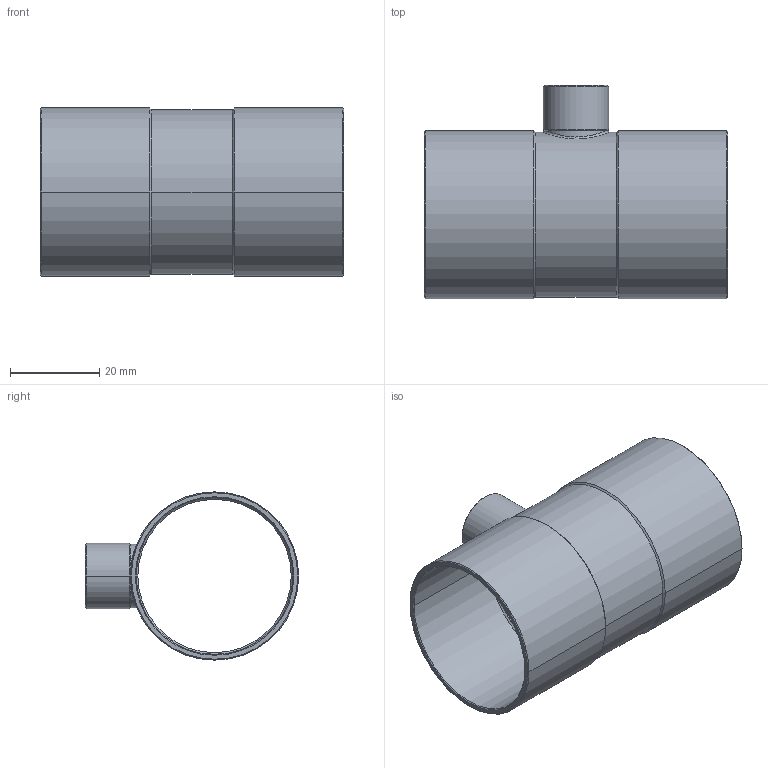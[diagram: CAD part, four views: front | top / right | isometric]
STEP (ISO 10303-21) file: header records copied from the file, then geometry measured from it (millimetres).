
FILE_DESCRIPTION((''),'2;1');
FILE_NAME('G:\Technics\CAD\Bauteile\15130\15130351235.stp','2005-11-02T10:19:47',('boden'),(''),'Autodesk Inventor 8','Autodesk Inventor 8','');
FILE_SCHEMA(('AUTOMOTIVE_DESIGN { 1 0 10303 214 1 1 1 1 }'));
Length unit declared in the file: millimetre
Products named in the file (1): 15130351235
Bounding box: 68 x 47.88 x 37.75 mm (x, y, z)
Volume: 10563 mm3; surface area: 16547.1 mm2
Topology: 1 solids, 1 shells, 49 faces, 110 edges, 62 vertices
Faces by surface type: cone 24, cylinder 20, plane 3, bspline 2
Entity records: 1682 total; most frequent: CARTESIAN_POINT 566, DIRECTION 240, ORIENTED_EDGE 220, EDGE_CURVE 110, AXIS2_PLACEMENT_3D 98, VERTEX_POINT 62, EDGE_LOOP 52, CIRCLE 50
